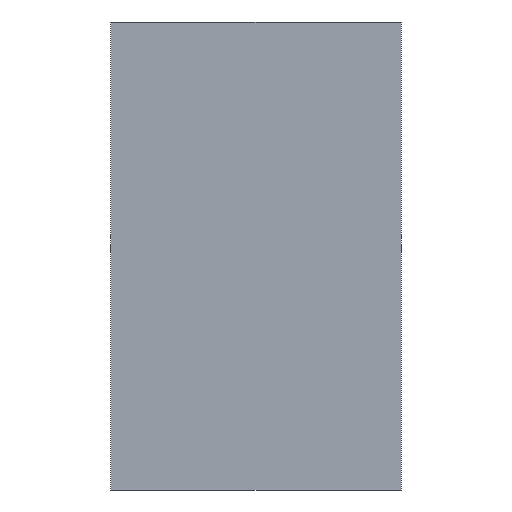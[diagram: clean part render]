
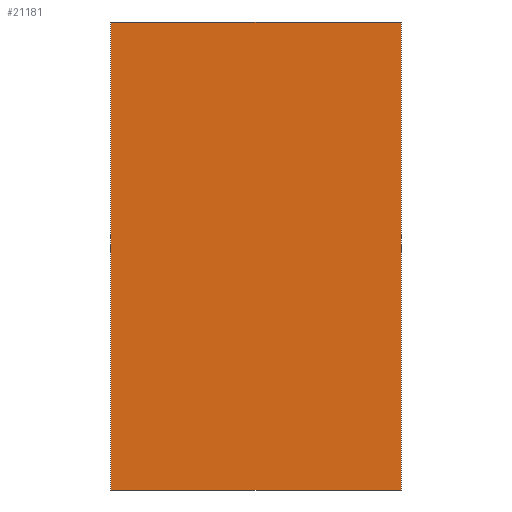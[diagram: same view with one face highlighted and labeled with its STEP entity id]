
A CAD part, front view. The second image highlights one B-rep face of the part: STEP entity #21181.
In plain terms, the highlighted planar face has unit normal (0, -1, 0).
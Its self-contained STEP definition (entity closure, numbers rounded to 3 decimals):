
#1383=FACE_OUTER_BOUND('',#2710,.T.);
#2710=EDGE_LOOP('',(#19281,#19282,#19283,#19284));
#5618=LINE('',#32876,#8527);
#5619=LINE('',#32879,#8528);
#5620=LINE('',#32881,#8529);
#5621=LINE('',#32882,#8530);
#8527=VECTOR('',#27028,10.);
#8528=VECTOR('',#27031,10.);
#8529=VECTOR('',#27032,10.);
#8530=VECTOR('',#27033,10.);
#10486=VERTEX_POINT('',#32872);
#10487=VERTEX_POINT('',#32874);
#10488=VERTEX_POINT('',#32878);
#10489=VERTEX_POINT('',#32880);
#13421=EDGE_CURVE('',#10486,#10487,#5618,.T.);
#13422=EDGE_CURVE('',#10486,#10488,#5619,.T.);
#13423=EDGE_CURVE('',#10489,#10487,#5620,.T.);
#13424=EDGE_CURVE('',#10488,#10489,#5621,.T.);
#19281=ORIENTED_EDGE('',*,*,#13422,.F.);
#19282=ORIENTED_EDGE('',*,*,#13421,.T.);
#19283=ORIENTED_EDGE('',*,*,#13423,.F.);
#19284=ORIENTED_EDGE('',*,*,#13424,.F.);
#20233=PLANE('',#22172);
#21181=ADVANCED_FACE('',(#1383),#20233,.T.);
#22172=AXIS2_PLACEMENT_3D('',#32877,#27029,#27030);
#27028=DIRECTION('',(0.,0.,-1.));
#27029=DIRECTION('center_axis',(0.,-1.,0.));
#27030=DIRECTION('ref_axis',(-1.,0.,0.));
#27031=DIRECTION('',(1.,0.,0.));
#27032=DIRECTION('',(-1.,0.,0.));
#27033=DIRECTION('',(0.,0.,-1.));
#32872=CARTESIAN_POINT('',(-775.,-410.,0.));
#32874=CARTESIAN_POINT('',(-775.,-410.,-2500.));
#32876=CARTESIAN_POINT('',(-775.,-410.,0.));
#32877=CARTESIAN_POINT('Origin',(775.,-410.,0.));
#32878=CARTESIAN_POINT('',(775.,-410.,0.));
#32879=CARTESIAN_POINT('',(-775.,-410.,0.));
#32880=CARTESIAN_POINT('',(775.,-410.,-2500.));
#32881=CARTESIAN_POINT('',(-775.,-410.,-2500.));
#32882=CARTESIAN_POINT('',(775.,-410.,0.));
